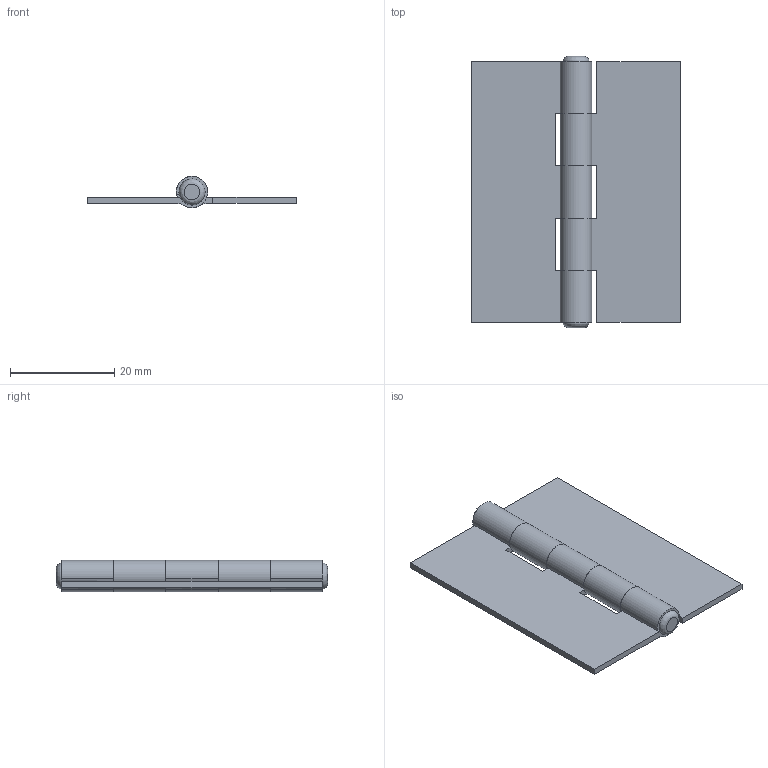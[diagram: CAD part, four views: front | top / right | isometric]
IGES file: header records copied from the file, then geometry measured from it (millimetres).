
Global section: file name: DR_HHN5040-12; native system: Autodesk Inventor 2015; preprocessor: unknown; author: Administrator; date: 20180811.153144; units: millimetre
Bounding box: 40 x 52 x 5.99 mm (x, y, z)
Volume: 3419.7 mm3; surface area: 5304.8 mm2
Topology: 2 solids, 2 shells, 52 faces, 154 edges, 102 vertices
Faces by surface type: bspline 52
